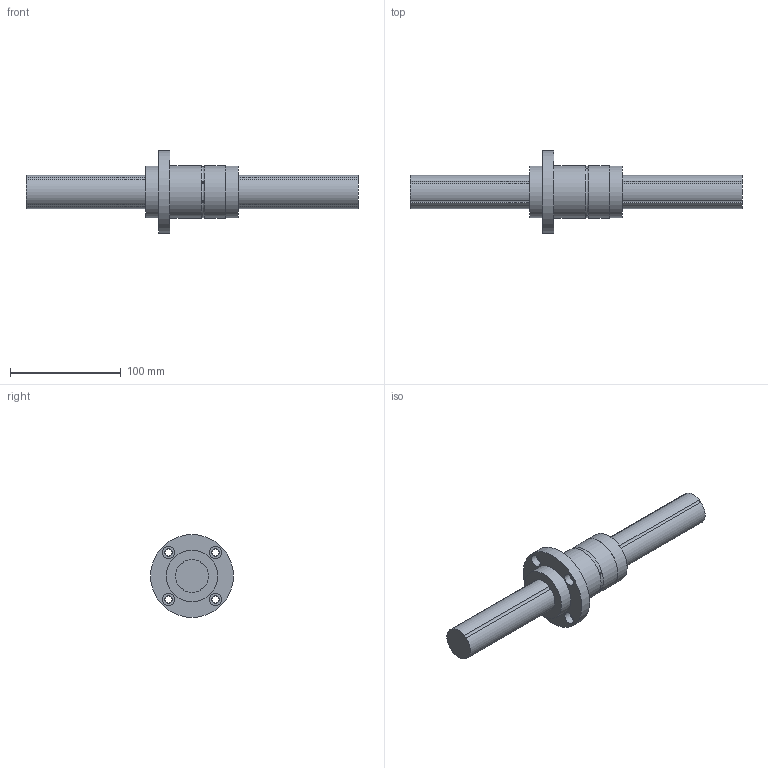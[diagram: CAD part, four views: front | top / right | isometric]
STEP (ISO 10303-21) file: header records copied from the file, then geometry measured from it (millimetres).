
FILE_DESCRIPTION((''),'2;1');
FILE_NAME('C:\Documents and Settings\土屋\My Documents\土屋移動用フォルダ\製品 (図面)\カタログ用3D\ボールスプライン\BSPF\BSPF30.stp','2015-02-23T13:32:44',('y'),(''),'Autodesk Inventor 11','Autodesk Inventor 11','');
FILE_SCHEMA(('AUTOMOTIVE_DESIGN { 1 0 10303 214 1 1 1 1 }'));
Length unit declared in the file: millimetre
Products named in the file (3): BSPF30; BSP30軸; BSPF30ナット
Assembly tree (2 placements, depth 2):
  BSPF30
    BSP30軸
    BSPF30ナット
Bounding box: 300 x 75 x 75 mm (x, y, z)
Volume: 320532.1 mm3; surface area: 59959.8 mm2
Topology: 2 solids, 2 shells, 49 faces, 108 edges, 74 vertices
Faces by surface type: cylinder 23, bspline 17, plane 9
Full cylindrical faces by diameter (mm): 2 x2, 46.8 x2, 47 x2, 75 x1
Entity records: 1686 total; most frequent: CARTESIAN_POINT 632, DIRECTION 214, ORIENTED_EDGE 164, AXIS2_PLACEMENT_3D 99, EDGE_LOOP 88, EDGE_CURVE 82, VERTEX_POINT 66, CIRCLE 62
